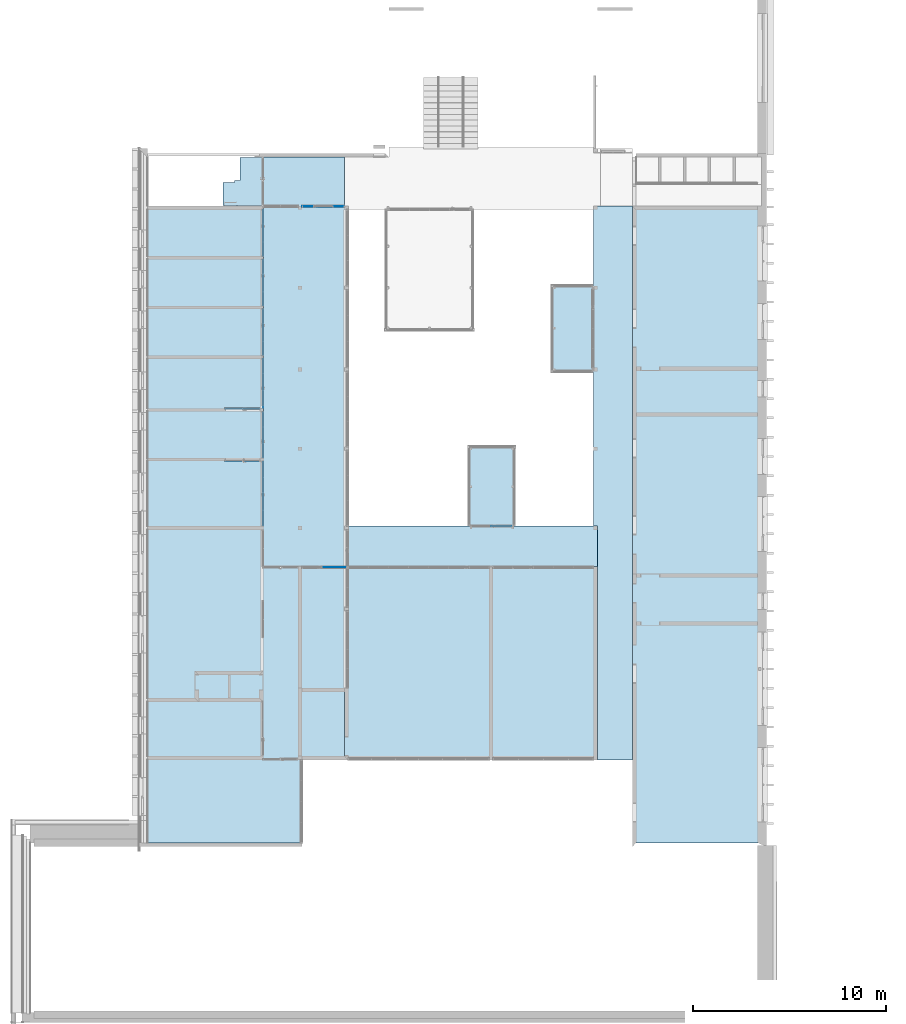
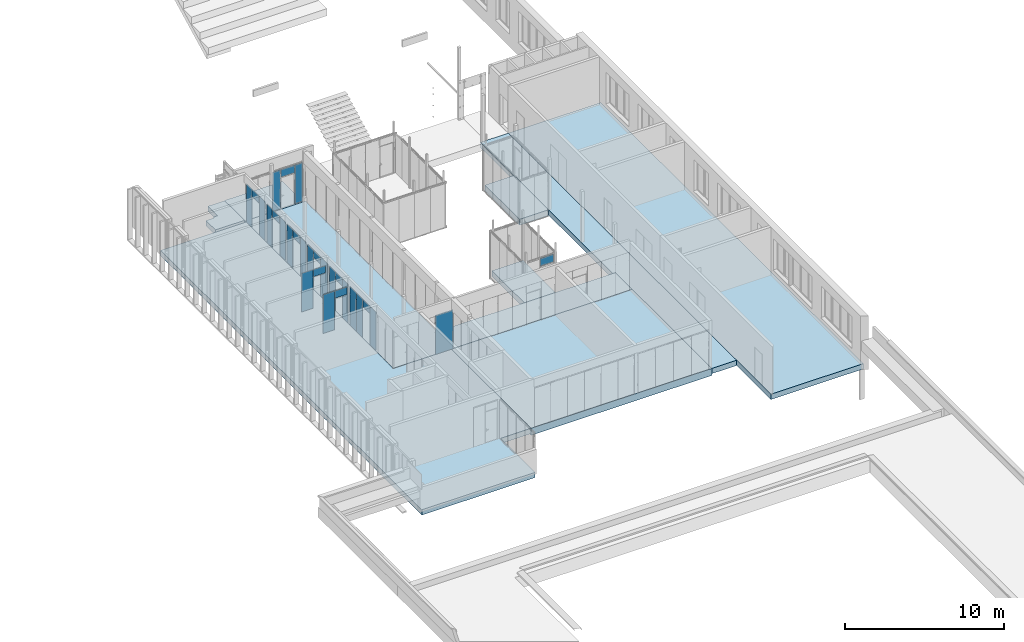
# One storey, part 25 of 387: 28 plates, 10 slabs, 11 elements without a shape of their own.
"""IFC2X3 building model written with IfcOpenShell, lengths in millimetres."""

from ifc_helpers import new_model, entity, si_unit, converted_unit, derived_unit, money_unit, direction, frame, origin_with_axes, place, context, subcontext, project, spatial, polyline, outline, extrude, material, layer, layer_set, layer_usage, type_object, element, aggregate, save


model = new_model("IFC2X3")

# Units and contexts
model_context = context("Model", 3, precision=0.01, world=origin_with_axes(), true_north=direction((0.0, 1.0)))
body_context = subcontext(model_context, "Body", "Model", "MODEL_VIEW")
ifc_project = project(units=[si_unit("LENGTHUNIT", "METRE", prefix="MILLI"), si_unit("AREAUNIT", "SQUARE_METRE"), si_unit("VOLUMEUNIT", "CUBIC_METRE"), converted_unit("PLANEANGLEUNIT", "DEGREE", entity("IfcPlaneAngleMeasure", 0.0174532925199), si_unit("PLANEANGLEUNIT", "RADIAN"), dimensions=[0, 0, 0, 0, 0, 0, 0]), si_unit("SOLIDANGLEUNIT", "STERADIAN"), money_unit("EUR"), converted_unit("TIMEUNIT", "Year", entity("IfcTimeMeasure", 31556926.0), si_unit("TIMEUNIT", "SECOND"), dimensions=[0, 0, 1, 0, 0, 0, 0]), si_unit("MASSUNIT", "GRAM", prefix="KILO"), si_unit("THERMODYNAMICTEMPERATUREUNIT", "DEGREE_CELSIUS"), si_unit("LUMINOUSINTENSITYUNIT", "LUMEN"), si_unit("ENERGYUNIT", "JOULE", prefix="MEGA"), derived_unit("THERMALCONDUCTANCEUNIT", [(si_unit("POWERUNIT", "WATT"), 1), (si_unit("LENGTHUNIT", "METRE"), -1), (si_unit("THERMODYNAMICTEMPERATUREUNIT", "KELVIN"), -1)]), derived_unit("SPECIFICHEATCAPACITYUNIT", [(si_unit("ENERGYUNIT", "JOULE"), 1), (si_unit("MASSUNIT", "GRAM", prefix="KILO"), -1), (si_unit("THERMODYNAMICTEMPERATUREUNIT", "KELVIN"), -1)]), derived_unit("MASSDENSITYUNIT", [(si_unit("MASSUNIT", "GRAM", prefix="KILO"), 1), (si_unit("VOLUMEUNIT", "CUBIC_METRE"), -1)])], contexts=[model_context])

# Site, building, storey
site_placement = place(None, origin_with_axes())
site = spatial("IfcSite", under=ifc_project, at=site_placement, Name="Puškini 31, Narva", CompositionType="ELEMENT")
building_placement = place(site_placement, origin_with_axes())
building = spatial("IfcBuilding", under=site, at=building_placement, Name="Narva Riigigümnaasium", CompositionType="ELEMENT")
storey_placement = place(building_placement, frame((0.0, 0.0, 2640.0), z_axis=(0.0, 0.0, 1.0), x_axis=(1.0, 0.0, 0.0)))
storey = spatial("IfcBuildingStorey", under=building, at=storey_placement, Name="2.korrus +2.64", CompositionType="ELEMENT", Elevation=2640.0)

# Curtain wall, plates
curtain_wall_type = type_object("IfcCurtainWallType", Name="Curtain Wall Type", PredefinedType="NOTDEFINED")
curtain_wall_1_placement = place(storey_placement, frame((28390.0000001, 190769.973479, -0.000112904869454), z_axis=(0.0, 0.0, 1.0), x_axis=(1.0, 0.0, 0.0)))
curtain_wall_1 = element("IfcCurtainWall", 1, at=curtain_wall_1_placement, inside=storey, type_object=curtain_wall_type, Name="G-SKLF-22")
ifc_material_1 = material(Name="VKR-05_Klaas")
plate_type_1 = type_object("IfcPlateType", Name="Main Panel 868 x 599 x 0", PredefinedType="CURTAIN_PANEL")
plate_1_placement = place(curtain_wall_1_placement, frame((0.0, 0.0, 2715.00000471), z_axis=(0.0, 0.0, 1.0), x_axis=(0.0, -1.0, 0.0)))
plate_1 = element("IfcPlate", 2, at=plate_1_placement, type_object=plate_type_1, material=ifc_material_1, Name="G-SKLF-22-klaas", ObjectType="CURTAIN_PANEL", context=body_context, shape_type="SweptSolid", body=[
    extrude(outline(polyline([(-450.0, -285.000000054), (450.0, -285.000000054), (450.0, 282.999995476), (-450.0, 282.999995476), (-450.0, -285.000000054)])), frame((0.0, -3.0, 0.0), z_axis=(0.0, 1.0, 0.0), x_axis=(1.0, 0.0, 0.0)), (0.0, 0.0, 1.0), 10.0),
])
plate_type_2 = type_object("IfcPlateType", Name="Main Panel 719 x 615 x 0", PredefinedType="CURTAIN_PANEL")
plate_2_placement = place(curtain_wall_1_placement, frame((0.0, -825.0, 1810.00000314), z_axis=(0.0, 0.0, 1.0), x_axis=(0.0, -1.0, 0.0)))
plate_2 = element("IfcPlate", 3, at=plate_2_placement, type_object=plate_type_2, material=ifc_material_1, Name="G-SKLF-22-klaas", ObjectType="CURTAIN_PANEL", context=body_context, shape_type="SweptSolid", body=[
    extrude(outline(polyline([(-342.999987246, -1189.9999818), (344.999980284, -1189.9999818), (344.999980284, 1779.99998343), (-342.999987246, 1779.99998343), (-342.999987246, -1189.9999818)])), frame((0.0, -3.0, 0.0), z_axis=(0.0, 1.0, 0.0), x_axis=(1.0, 0.0, 0.0)), (0.0, 0.0, 1.0), 10.0),
])
plate_3_placement = place(curtain_wall_1_placement, frame((0.0, 825.013260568, 1810.00000314), z_axis=(0.0, 0.0, 1.0), x_axis=(0.0, -1.0, 0.0)))
plate_3 = element("IfcPlate", 4, at=plate_3_placement, type_object=plate_type_2, material=ifc_material_1, Name="G-SKLF-22-klaas", ObjectType="CURTAIN_PANEL", context=body_context, shape_type="SweptSolid", body=[
    extrude(outline(polyline([(-345.013264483, -1189.9999818), (343.013251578, -1189.9999818), (343.013251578, 1779.99998343), (-345.013264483, 1779.99998343), (-345.013264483, -1189.9999818)])), frame((0.0, -3.0, 0.0), z_axis=(0.0, 1.0, 0.0), x_axis=(1.0, 0.0, 0.0)), (0.0, 0.0, 1.0), 10.0),
])
aggregate(curtain_wall_1, [plate_1, plate_2, plate_3])

curtain_wall_2_placement = place(storey_placement, frame((26984.7499996, 181679.973357, -1.33722362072e-05), z_axis=(0.0, 0.0, 1.0), x_axis=(1.0, 0.0, 0.0)))
curtain_wall_2 = element("IfcCurtainWall", 5, at=curtain_wall_2_placement, inside=storey, type_object=curtain_wall_type, Name="G-SKLF-18")
plate_type_3 = type_object("IfcPlateType", Name="Distinct Panel 16 x 630 x 20", PredefinedType="CURTAIN_PANEL")
plate_4_placement = place(curtain_wall_2_placement, frame((0.0, 0.0, 1736.25000493), z_axis=(0.0, 0.0, 1.0), x_axis=(1.0, 0.0, 0.0)))
plate_4 = element("IfcPlate", 6, at=plate_4_placement, type_object=plate_type_3, material=ifc_material_1, Name="G-SKLF-18-klaas", ObjectType="CURTAIN_PANEL", context=body_context, shape_type="SweptSolid", body=[
    extrude(outline(polyline([(-524.749984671, -1263.74997958), (313.249991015, -1263.74997958), (313.249991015, 1706.24998521), (-524.749984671, 1706.24998521), (-524.749984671, -1263.74997958)])), frame((0.0, -2.49999999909, 0.0), z_axis=(0.0, 1.0, 0.0), x_axis=(1.0, 0.0, 0.0)), (0.0, 0.0, 1.0), 9.00000002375),
])
plate_type_4 = type_object("IfcPlateType", Name="Distinct Panel 868 x 598 x 20", PredefinedType="CURTAIN_PANEL")
plate_5_placement = place(curtain_wall_2_placement, frame((795.25, 2.25099938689e-08, 2715.0000088), z_axis=(0.0, 0.0, 1.0), x_axis=(1.0, 0.0, 0.0)))
plate_5 = element("IfcPlate", 7, at=plate_5_placement, type_object=plate_type_4, material=ifc_material_1, Name="G-SKLF-18-klaas", ObjectType="CURTAIN_PANEL", context=body_context, shape_type="SweptSolid", body=[
    extrude(outline(polyline([(-450.0, -283.000000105), (417.99999553, -283.000000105), (417.99999553, 282.999990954), (-450.0, 282.999990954), (-450.0, -283.000000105)])), frame((0.0, -2.49999999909, 0.0), z_axis=(0.0, 1.0, 0.0), x_axis=(1.0, 0.0, 0.0)), (0.0, 0.0, 1.0), 9.00000002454),
])
aggregate(curtain_wall_2, [plate_4, plate_5])

curtain_wall_3_placement = place(storey_placement, frame((28390.0000002, 176724.161139, -5.42380846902e-05), z_axis=(0.0, 0.0, 1.0), x_axis=(1.0, 0.0, 0.0)))
curtain_wall_3 = element("IfcCurtainWall", 8, at=curtain_wall_3_placement, inside=storey, type_object=curtain_wall_type, Name="G-SKLF-12")
plate_type_5 = type_object("IfcPlateType", Name="Distinct Panel 790 x 615 x 20", PredefinedType="CURTAIN_PANEL")
plate_6_placement = place(curtain_wall_3_placement, frame((-1.4544809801e-08, 941.953749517, 1551.42859182), z_axis=(0.0, 0.0, 1.0), x_axis=(0.0, 1.0, 0.0)))
plate_6 = element("IfcPlate", 9, at=plate_6_placement, type_object=plate_type_5, material=ifc_material_1, Name="G-SKLF-12-klaas", ObjectType="CURTAIN_PANEL", context=body_context, shape_type="SweptSolid", body=[
    extrude(outline(polyline([(-318.142857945, -1448.57140546), (456.857142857, -1448.57140546), (456.857142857, 1521.42857198), (-318.142857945, 1521.42857198), (-318.142857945, -1448.57140546)])), frame((0.0, -2.5, 0.0), z_axis=(0.0, 1.0, 0.0), x_axis=(1.0, 0.0, 0.0)), (0.0, 0.0, 1.0), 9.0),
])
plate_type_6 = type_object("IfcPlateType", Name="Distinct Panel 868 x 599 x 20", PredefinedType="CURTAIN_PANEL")
plate_7_placement = place(curtain_wall_3_placement, frame((-8.77520278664e-10, 56.7243570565, 2652.00003939), z_axis=(0.0, 0.0, 1.0), x_axis=(0.0, 1.0, 0.0)))
plate_7 = element("IfcPlate", 10, at=plate_7_placement, type_object=plate_type_6, material=ifc_material_1, Name="G-SKLF-12-klaas", ObjectType="CURTAIN_PANEL", context=body_context, shape_type="SweptSolid", body=[
    extrude(outline(polyline([(-364.913464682, -347.999974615), (535.086535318, -347.999974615), (535.086535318, 219.999980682), (-364.913464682, 219.999980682), (-364.913464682, -347.999974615)])), frame((0.0, -2.5, 0.0), z_axis=(0.0, 1.0, 0.0), x_axis=(1.0, 0.0, 0.0)), (0.0, 0.0, 1.0), 9.0),
])
plate_type_7 = type_object("IfcPlateType", Name="Distinct Panel 791 x 615 x 20", PredefinedType="CURTAIN_PANEL")
plate_8_placement = place(curtain_wall_3_placement, frame((-2.78248535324e-08, 1802.31089237, 1810.00002379), z_axis=(0.0, 0.0, 1.0), x_axis=(0.0, 1.0, 0.0)))
plate_8 = element("IfcPlate", 11, at=plate_8_placement, type_object=plate_type_7, material=ifc_material_1, Name="G-SKLF-12-klaas", ObjectType="CURTAIN_PANEL", context=body_context, shape_type="SweptSolid", body=[
    extrude(outline(polyline([(-400.49998085, -1189.99997349), (373.499980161, -1189.99997349), (373.499980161, 1780.00000395), (-400.49998085, 1780.00000395), (-400.49998085, -1189.99997349)])), frame((0.0, -2.5, 0.0), z_axis=(0.0, 1.0, 0.0), x_axis=(1.0, 0.0, 0.0)), (0.0, 0.0, 1.0), 9.0),
])
plate_type_8 = type_object("IfcPlateType", Name="Distinct Panel 775 x 615 x 20", PredefinedType="CURTAIN_PANEL")
plate_9_placement = place(curtain_wall_3_placement, frame((1.0153655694e-08, -657.887331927, 1551.42859182), z_axis=(0.0, 0.0, 1.0), x_axis=(0.0, 1.0, 0.0)))
plate_9 = element("IfcPlate", 12, at=plate_9_placement, type_object=plate_type_8, material=ifc_material_1, Name="G-SKLF-12-klaas", ObjectType="CURTAIN_PANEL", context=body_context, shape_type="SweptSolid", body=[
    extrude(outline(polyline([(-426.273597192, -1448.57140546), (317.69821518, -1448.57140546), (317.69821518, 1521.42857198), (-426.273732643, 1521.42857198), (-426.273597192, -1448.57140546)])), frame((0.0, -2.5, 0.0), z_axis=(0.0, 1.0, 0.0), x_axis=(1.0, 0.0, 0.0)), (0.0, 0.0, 1.0), 9.0),
])
aggregate(curtain_wall_3, [plate_6, plate_7, plate_8, plate_9])

# Curtain wall, plate
curtain_wall_4_placement = place(storey_placement, frame((30909.9999988, 173462.997263, -3.04069565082e-05), z_axis=(0.0, 0.0, 1.0), x_axis=(1.0, 0.0, 0.0)))
curtain_wall_4 = element("IfcCurtainWall", 13, at=curtain_wall_4_placement, inside=storey, type_object=curtain_wall_type, Name="G-SKLF-13")
plate_type_9 = type_object("IfcPlateType", Name="1301 x 630 x 10", PredefinedType="CURTAIN_PANEL")
plate_10_placement = place(curtain_wall_4_placement, frame((1068.28444685, -2.29931629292e-08, 1551.42857541), z_axis=(0.0, 0.0, 1.0), x_axis=(-1.0, 0.0, 0.0)))
plate_10 = element("IfcPlate", 14, at=plate_10_placement, type_object=plate_type_9, material=ifc_material_1, Name="G-SKLF-13-klaas", ObjectType="CURTAIN_PANEL", context=body_context, shape_type="SweptSolid", body=[
    extrude(outline(polyline([(-732.713262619, -1478.57140812), (568.284446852, -1478.57140812), (568.284446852, -848.571449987), (553.284437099, -848.571449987), (553.284437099, 1551.42857541), (538.286594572, 1551.42857541), (538.286594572, 1536.42856566), (-732.71335292, 1536.42856566), (-732.713262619, -1478.57140812)])), frame((0.0, -6.50000002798, 0.0), z_axis=(0.0, 1.0, 0.0), x_axis=(1.0, 0.0, 0.0)), (0.0, 0.0, 1.0), 9.00000002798),
])
aggregate(curtain_wall_4, [plate_10])

curtain_wall_5_placement = place(storey_placement, frame((41281.9672345, 175592.500019, -3.22566622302e-05), z_axis=(0.0, 0.0, 1.0), x_axis=(1.0, 0.0, 0.0)))
curtain_wall_5 = element("IfcCurtainWall", 15, at=curtain_wall_5_placement, inside=storey, type_object=curtain_wall_type, Name="G-SKLF-38")
plate_type_10 = type_object("IfcPlateType", Name="32 x 615 x 10", PredefinedType="CURTAIN_PANEL")
plate_11_placement = place(curtain_wall_5_placement, frame((-719.298811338, 1.3073986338e-09, 2715.0000088), z_axis=(0.0, 0.0, 1.0), x_axis=(-1.0, 0.0, 0.0)))
plate_11 = element("IfcPlate", 16, at=plate_11_placement, type_object=plate_type_10, material=ifc_material_1, Name="G-SKLF-38-klaas", ObjectType="CURTAIN_PANEL", context=body_context, shape_type="SweptSolid", body=[
    extrude(outline(polyline([(-657.182705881, -299.999965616), (344.365414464, -299.999965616), (344.365414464, 314.999976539), (-657.182705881, 314.999976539), (-657.182705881, -299.999965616)])), frame((0.0, -5.00000000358, 0.0), z_axis=(0.0, 1.0, 0.0), x_axis=(1.0, 0.0, 0.0)), (0.0, 0.0, 1.0), 10.0000000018),
])
aggregate(curtain_wall_5, [plate_11])

# Curtain wall, plates
curtain_wall_6_placement = place(storey_placement, frame((26985.0, 178969.972032, -1.33722362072e-05), z_axis=(0.0, 0.0, 1.0), x_axis=(1.0, 0.0, 0.0)))
curtain_wall_6 = element("IfcCurtainWall", 17, at=curtain_wall_6_placement, inside=storey, type_object=curtain_wall_type, Name="G-SKLF-16")
plate_type_11 = type_object("IfcPlateType", Name="29 x 630 x 20", PredefinedType="CURTAIN_PANEL")
plate_12_placement = place(curtain_wall_6_placement, frame((0.0, 0.0, 1736.25000493), z_axis=(0.0, 0.0, 1.0), x_axis=(1.0, 0.0, 0.0)))
plate_12 = element("IfcPlate", 18, at=plate_12_placement, type_object=plate_type_11, material=ifc_material_1, Name="G-SKLF-16-klaas", ObjectType="CURTAIN_PANEL", context=body_context, shape_type="SweptSolid", body=[
    extrude(outline(polyline([(-524.999984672, -1263.74997958), (312.999991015, -1263.74997958), (312.999991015, 1706.24998521), (-524.999984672, 1706.24998521), (-524.999984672, -1263.74997958)])), frame((0.0, -6.50000002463, 0.0), z_axis=(0.0, 1.0, 0.0), x_axis=(1.0, 0.0, 0.0)), (0.0, 0.0, 1.0), 9.00000002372),
])
plate_type_12 = type_object("IfcPlateType", Name="883 x 613 x 20", PredefinedType="CURTAIN_PANEL")
plate_13_placement = place(curtain_wall_6_placement, frame((795.0, -2.25384155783e-08, 2715.0000088), z_axis=(0.0, 0.0, 1.0), x_axis=(1.0, 0.0, 0.0)))
plate_13 = element("IfcPlate", 19, at=plate_13_placement, type_object=plate_type_12, material=ifc_material_1, Name="G-SKLF-16-klaas", ObjectType="CURTAIN_PANEL", context=body_context, shape_type="SweptSolid", body=[
    extrude(outline(polyline([(-450.0, -283.000000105), (417.99999553, -283.000000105), (417.99999553, 282.999990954), (-450.0, 282.999990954), (-450.0, -283.000000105)])), frame((0.0, -6.50000002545, 0.0), z_axis=(0.0, 1.0, 0.0), x_axis=(1.0, 0.0, 0.0)), (0.0, 0.0, 1.0), 9.00000002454),
])
aggregate(curtain_wall_6, [plate_12, plate_13])

# Curtain wall, plate
curtain_wall_7_placement = place(storey_placement, frame((28390.0000001, 188199.946958, -0.000112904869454), z_axis=(0.0, 0.0, 1.0), x_axis=(1.0, 0.0, 0.0)))
curtain_wall_7 = element("IfcCurtainWall", 20, at=curtain_wall_7_placement, inside=storey, type_object=curtain_wall_type, Name="G-SKLF-21")
plate_type_13 = type_object("IfcPlateType", Name="Main Panel 868 x 599 x 20", PredefinedType="CURTAIN_PANEL")
plate_14_placement = place(curtain_wall_7_placement, frame((0.0, 0.0, 2715.00000471), z_axis=(0.0, 0.0, 1.0), x_axis=(0.0, -1.0, 0.0)))
plate_14 = element("IfcPlate", 21, at=plate_14_placement, type_object=plate_type_13, material=ifc_material_1, Name="G-SKLF-21-klaas", ObjectType="CURTAIN_PANEL", context=body_context, shape_type="SweptSolid", body=[
    extrude(outline(polyline([(-450.0, -285.000000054), (450.0, -285.000000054), (450.0, 282.999995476), (-450.0, 282.999995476), (-450.0, -285.000000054)])), frame((0.0, -2.5, 0.0), z_axis=(0.0, 1.0, 0.0), x_axis=(1.0, 0.0, 0.0)), (0.0, 0.0, 1.0), 9.0),
])

curtain_wall_8_placement = place(storey_placement, frame((28390.0000001, 185629.946958, -0.000112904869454), z_axis=(0.0, 0.0, 1.0), x_axis=(1.0, 0.0, 0.0)))
curtain_wall_8 = element("IfcCurtainWall", 22, at=curtain_wall_8_placement, inside=storey, type_object=curtain_wall_type, Name="G-SKLF-20")
plate_15_placement = place(curtain_wall_8_placement, frame((0.0, 0.0, 2715.00000471), z_axis=(0.0, 0.0, 1.0), x_axis=(0.0, -1.0, 0.0)))
plate_15 = element("IfcPlate", 23, at=plate_15_placement, type_object=plate_type_13, material=ifc_material_1, Name="G-SKLF-21-klaas", ObjectType="CURTAIN_PANEL", context=body_context, shape_type="SweptSolid", body=[
    extrude(outline(polyline([(-450.0, -285.000000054), (450.0, -285.000000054), (450.0, 282.999995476), (-450.0, 282.999995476), (-450.0, -285.000000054)])), frame((0.0, -2.5, 0.0), z_axis=(0.0, 1.0, 0.0), x_axis=(1.0, 0.0, 0.0)), (0.0, 0.0, 1.0), 9.0),
])

curtain_wall_9_placement = place(storey_placement, frame((28390.0000001, 183059.973479, -0.000112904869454), z_axis=(0.0, 0.0, 1.0), x_axis=(1.0, 0.0, 0.0)))
curtain_wall_9 = element("IfcCurtainWall", 24, at=curtain_wall_9_placement, inside=storey, type_object=curtain_wall_type, Name="G-SKLF-19")
plate_16_placement = place(curtain_wall_9_placement, frame((0.0, 0.0, 2715.00000471), z_axis=(0.0, 0.0, 1.0), x_axis=(0.0, 1.0, 0.0)))
plate_16 = element("IfcPlate", 25, at=plate_16_placement, type_object=plate_type_13, material=ifc_material_1, Name="G-SKLF-22-klaas", ObjectType="CURTAIN_PANEL", context=body_context, shape_type="SweptSolid", body=[
    extrude(outline(polyline([(-417.99999553, -285.000000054), (417.99999553, -285.000000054), (417.99999553, 282.999995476), (-417.99999553, 282.999995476), (-417.99999553, -285.000000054)])), frame((0.0, -6.5, 0.0), z_axis=(0.0, 1.0, 0.0), x_axis=(1.0, 0.0, 0.0)), (0.0, 0.0, 1.0), 9.0),
])

curtain_wall_10_placement = place(storey_placement, frame((28390.0000001, 180299.973357, -0.00013048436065), z_axis=(0.0, 0.0, 1.0), x_axis=(1.0, 0.0, 0.0)))
curtain_wall_10 = element("IfcCurtainWall", 26, at=curtain_wall_10_placement, inside=storey, type_object=curtain_wall_type, Name="G-SKLF-17")
plate_17_placement = place(curtain_wall_10_placement, frame((0.0, 0.0, 2715.0000221), z_axis=(0.0, 0.0, 1.0), x_axis=(0.0, 1.0, 0.0)))
plate_17 = element("IfcPlate", 27, at=plate_17_placement, type_object=plate_type_13, material=ifc_material_1, Name="G-SKLF-22-klaas", ObjectType="CURTAIN_PANEL", context=body_context, shape_type="SweptSolid", body=[
    extrude(outline(polyline([(-417.99999553, -285.000000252), (417.99999553, -285.000000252), (417.99999553, 282.999995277), (-417.99999553, 282.999995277), (-417.99999553, -285.000000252)])), frame((0.0, -6.5, 0.0), z_axis=(0.0, 1.0, 0.0), x_axis=(1.0, 0.0, 0.0)), (0.0, 0.0, 1.0), 9.0),
])

# Plate
plate_type_14 = type_object("IfcPlateType", Name="Main Panel 719 x 615 x 20", PredefinedType="CURTAIN_PANEL")
plate_18_placement = place(curtain_wall_7_placement, frame((0.0, 825.013260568, 1810.00000314), z_axis=(0.0, 0.0, 1.0), x_axis=(0.0, -1.0, 0.0)))
plate_18 = element("IfcPlate", 28, at=plate_18_placement, type_object=plate_type_14, material=ifc_material_1, Name="G-SKLF-21-klaas", ObjectType="CURTAIN_PANEL", context=body_context, shape_type="SweptSolid", body=[
    extrude(outline(polyline([(-345.013264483, -1189.9999818), (343.013251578, -1189.9999818), (343.013251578, 1779.99998343), (-345.013264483, 1779.99998343), (-345.013264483, -1189.9999818)])), frame((0.0, -2.5, 0.0), z_axis=(0.0, 1.0, 0.0), x_axis=(1.0, 0.0, 0.0)), (0.0, 0.0, 1.0), 9.0),
])

plate_19_placement = place(curtain_wall_7_placement, frame((0.0, -825.0, 1810.00000314), z_axis=(0.0, 0.0, 1.0), x_axis=(0.0, -1.0, 0.0)))
plate_19 = element("IfcPlate", 29, at=plate_19_placement, type_object=plate_type_14, material=ifc_material_1, Name="G-SKLF-21-klaas", ObjectType="CURTAIN_PANEL", context=body_context, shape_type="SweptSolid", body=[
    extrude(outline(polyline([(-342.999987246, -1189.9999818), (344.999980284, -1189.9999818), (344.999980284, 1779.99998343), (-342.999987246, 1779.99998343), (-342.999987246, -1189.9999818)])), frame((0.0, -2.5, 0.0), z_axis=(0.0, 1.0, 0.0), x_axis=(1.0, 0.0, 0.0)), (0.0, 0.0, 1.0), 9.0),
])

aggregate(curtain_wall_7, [plate_14, plate_18, plate_19])

plate_20_placement = place(curtain_wall_8_placement, frame((0.0, 825.013260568, 1810.00000314), z_axis=(0.0, 0.0, 1.0), x_axis=(0.0, -1.0, 0.0)))
plate_20 = element("IfcPlate", 30, at=plate_20_placement, type_object=plate_type_14, material=ifc_material_1, Name="G-SKLF-21-klaas", ObjectType="CURTAIN_PANEL", context=body_context, shape_type="SweptSolid", body=[
    extrude(outline(polyline([(-345.013264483, -1189.9999818), (343.013251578, -1189.9999818), (343.013251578, 1779.99998343), (-345.013264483, 1779.99998343), (-345.013264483, -1189.9999818)])), frame((0.0, -2.5, 0.0), z_axis=(0.0, 1.0, 0.0), x_axis=(1.0, 0.0, 0.0)), (0.0, 0.0, 1.0), 9.0),
])

plate_21_placement = place(curtain_wall_8_placement, frame((0.0, -825.0, 1810.00000314), z_axis=(0.0, 0.0, 1.0), x_axis=(0.0, -1.0, 0.0)))
plate_21 = element("IfcPlate", 31, at=plate_21_placement, type_object=plate_type_14, material=ifc_material_1, Name="G-SKLF-21-klaas", ObjectType="CURTAIN_PANEL", context=body_context, shape_type="SweptSolid", body=[
    extrude(outline(polyline([(-342.999987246, -1189.9999818), (344.999980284, -1189.9999818), (344.999980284, 1779.99998343), (-342.999987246, 1779.99998343), (-342.999987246, -1189.9999818)])), frame((0.0, -2.5, 0.0), z_axis=(0.0, 1.0, 0.0), x_axis=(1.0, 0.0, 0.0)), (0.0, 0.0, 1.0), 9.0),
])

aggregate(curtain_wall_8, [plate_15, plate_20, plate_21])

plate_22_placement = place(curtain_wall_9_placement, frame((0.0, 825.0, 1810.00000314), z_axis=(0.0, 0.0, 1.0), x_axis=(0.0, 1.0, 0.0)))
plate_22 = element("IfcPlate", 32, at=plate_22_placement, type_object=plate_type_14, material=ifc_material_1, Name="G-SKLF-22-klaas", ObjectType="CURTAIN_PANEL", context=body_context, shape_type="SweptSolid", body=[
    extrude(outline(polyline([(-374.999996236, -1189.9999818), (344.999980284, -1189.9999818), (344.999980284, 1779.99998343), (-374.999996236, 1779.99998343), (-374.999996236, -1189.9999818)])), frame((0.0, -6.5, 0.0), z_axis=(0.0, 1.0, 0.0), x_axis=(1.0, 0.0, 0.0)), (0.0, 0.0, 1.0), 9.0),
])

plate_23_placement = place(curtain_wall_10_placement, frame((0.0, 825.0, 1810.00001473), z_axis=(0.0, 0.0, 1.0), x_axis=(0.0, 1.0, 0.0)))
plate_23 = element("IfcPlate", 33, at=plate_23_placement, type_object=plate_type_14, material=ifc_material_1, Name="G-SKLF-22-klaas", ObjectType="CURTAIN_PANEL", context=body_context, shape_type="SweptSolid", body=[
    extrude(outline(polyline([(-375.000000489, -1189.99998723), (344.999980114, -1189.99998723), (344.999980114, 1779.99999484), (-375.000000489, 1779.99999484), (-375.000000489, -1189.99998723)])), frame((0.0, -6.5, 0.0), z_axis=(0.0, 1.0, 0.0), x_axis=(1.0, 0.0, 0.0)), (0.0, 0.0, 1.0), 9.0),
])

plate_type_15 = type_object("IfcPlateType", Name="Main Panel 734 x 615 x 20", PredefinedType="CURTAIN_PANEL")
plate_24_placement = place(curtain_wall_9_placement, frame((0.0, -978.750025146, 1736.25000068), z_axis=(0.0, 0.0, 1.0), x_axis=(0.0, 1.0, 0.0)))
plate_24 = element("IfcPlate", 34, at=plate_24_placement, type_object=plate_type_15, material=ifc_material_1, Name="G-SKLF-22-klaas", ObjectType="CURTAIN_PANEL", context=body_context, shape_type="SweptSolid", body=[
    extrude(outline(polyline([(-351.249996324, -1263.74998426), (528.750025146, -1263.74998426), (528.750025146, 1706.24998097), (-351.250086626, 1706.24998097), (-351.249996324, -1263.74998426)])), frame((0.0, -6.5, 0.0), z_axis=(0.0, 1.0, 0.0), x_axis=(1.0, 0.0, 0.0)), (0.0, 0.0, 1.0), 9.0),
])

aggregate(curtain_wall_9, [plate_16, plate_24, plate_22])

plate_type_16 = type_object("IfcPlateType", Name="Main Panel 689 x 615 x 20", PredefinedType="CURTAIN_PANEL")
plate_25_placement = place(curtain_wall_10_placement, frame((0.0, -810.000660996, 1810.00001473), z_axis=(0.0, 0.0, 1.0), x_axis=(0.0, 1.0, 0.0)))
plate_25 = element("IfcPlate", 35, at=plate_25_placement, type_object=plate_type_16, material=ifc_material_1, Name="G-SKLF-22-klaas", ObjectType="CURTAIN_PANEL", context=body_context, shape_type="SweptSolid", body=[
    extrude(outline(polyline([(-330.000654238, -1189.99998723), (360.000660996, -1189.99998723), (360.000660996, 1779.99999484), (-330.000654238, 1779.99999484), (-330.000654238, -1189.99998723)])), frame((0.0, -6.5, 0.0), z_axis=(0.0, 1.0, 0.0), x_axis=(1.0, 0.0, 0.0)), (0.0, 0.0, 1.0), 9.0),
])

aggregate(curtain_wall_10, [plate_17, plate_23, plate_25])

# Curtain wall, plates
curtain_wall_11_placement = place(storey_placement, frame((32261.4285728, 192143.0, -1.99739158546e-06), z_axis=(0.0, 0.0, 1.0), x_axis=(1.0, 0.0, 0.0)))
curtain_wall_11 = element("IfcCurtainWall", 36, at=curtain_wall_11_placement, inside=storey, type_object=curtain_wall_type, Name="G-SKLF-24")
plate_type_17 = type_object("IfcPlateType", Name="Siseklaasfassaad - Klaas 570 x 615 x 10", PredefinedType="CURTAIN_PANEL")
plate_26_placement = place(curtain_wall_11_placement, frame((0.0, 0.0, 1551.42856921), z_axis=(0.0, 0.0, 1.0), x_axis=(1.0, 0.0, 0.0)))
plate_26 = element("IfcPlate", 37, at=plate_26_placement, type_object=plate_type_17, material=ifc_material_1, Name="G-SKLF-24-klaas", ObjectType="CURTAIN_PANEL", context=body_context, shape_type="SweptSolid", body=[
    extrude(outline(polyline([(-246.428547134, -1463.57141324), (323.571418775, -1463.57141324), (323.571418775, 1536.42855942), (-231.428582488, 1536.42855942), (-231.428582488, 1551.42856921), (-246.428547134, 1551.42856921), (-246.428547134, -1463.57141324)])), frame((0.0, -2.50000000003, 0.0), z_axis=(0.0, 1.0, 0.0), x_axis=(1.0, 0.0, 0.0)), (0.0, 0.0, 1.0), 8.99999999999),
])
plate_27_placement = place(curtain_wall_11_placement, frame((-1522.85714434, 0.0, 1551.42856921), z_axis=(0.0, 0.0, 1.0), x_axis=(1.0, 0.0, 0.0)))
plate_27 = element("IfcPlate", 38, at=plate_27_placement, type_object=plate_type_17, material=ifc_material_1, Name="G-SKLF-24-klaas", ObjectType="CURTAIN_PANEL", context=body_context, shape_type="SweptSolid", body=[
    extrude(outline(polyline([(-323.571402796, -1463.57141324), (246.428563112, -1463.57141324), (246.428563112, 1551.42856921), (231.428553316, 1551.42856921), (231.428553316, 1536.42855942), (-323.571402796, 1536.42855942), (-323.571402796, -1463.57141324)])), frame((0.0, -2.50000000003, 0.0), z_axis=(0.0, 1.0, 0.0), x_axis=(1.0, 0.0, 0.0)), (0.0, 0.0, 1.0), 8.99999999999),
])
plate_type_18 = type_object("IfcPlateType", Name="Siseklaasfassaad - Klaas 970 x 600 x 10", PredefinedType="CURTAIN_PANEL")
plate_28_placement = place(curtain_wall_11_placement, frame((-761.428571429, 0.0, 2714.99999613), z_axis=(0.0, 0.0, 1.0), x_axis=(1.0, 0.0, 0.0)))
plate_28 = element("IfcPlate", 39, at=plate_28_placement, type_object=plate_type_18, material=ifc_material_1, Name="G-SKLF-24-klaas", ObjectType="CURTAIN_PANEL", context=body_context, shape_type="SweptSolid", body=[
    extrude(outline(polyline([(-484.999985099, -299.999988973), (484.999985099, -299.999988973), (484.999985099, 299.999981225), (-484.999985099, 299.999981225), (-484.999985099, -299.999988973)])), frame((0.0, -2.5, 0.0), z_axis=(0.0, 1.0, 0.0), x_axis=(1.0, 0.0, 0.0)), (0.0, 0.0, 1.0), 8.99999999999),
])
aggregate(curtain_wall_11, [plate_26, plate_27, plate_28])

# Slabs
ifc_material_2 = material(Name="KON-04_Betoon - Konstuktsioon")
ifc_layer_1 = layer(ifc_material_2, 90.0, ventilated="UNKNOWN")
ifc_material_3 = material(Name="SOJ-04_Soojustus - Mineraal Kõva")
ifc_layer_2 = layer(ifc_material_3, 30.0, ventilated="UNKNOWN")
ifc_material_4 = material(Name="SOJ-06_Soojustus - Plastik Kõva")
ifc_layer_3 = layer(ifc_material_4, 20.0, ventilated="UNKNOWN")
ifc_material_5 = material(Name="Betoon element")
ifc_layer_4 = layer(ifc_material_5, 265.0, ventilated="UNKNOWN")
ifc_layer_set_1 = layer_set([ifc_layer_1, ifc_layer_2, ifc_layer_3, ifc_layer_4], Name="G-VL-02*")
ifc_layer_usage_1 = layer_usage(ifc_layer_set_1, "AXIS3", "NEGATIVE", 405.0)
slab_type_1 = type_object("IfcSlabType", Name="G-VL-02* 405", PredefinedType="NOTDEFINED")
slab_1_placement = place(storey_placement, frame((28399.9514175, 192101.547021, 0.0), z_axis=(0.0, 0.0, 1.0), x_axis=(1.0, 0.0, 0.0)))
element("IfcSlab", 40, at=slab_1_placement, inside=storey, type_object=slab_type_1, material=ifc_layer_usage_1, Name="Vahelagi", PredefinedType="NOTDEFINED", context=body_context, shape_type="SweptSolid", body=[
    extrude(outline(polyline([(0.0, 0.0), (-11.7933865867, -18601.5470367), (4200.04858523, -18601.5467595), (4200.04858523, -16501.5469978), (4400.04858894, -16501.5469978), (4400.04858894, 0.0), (0.0, 0.0)])), frame((0.0, 0.0, -405.0), z_axis=(0.0, 0.0, 1.0), x_axis=(1.0, 0.0, 0.0)), (0.0, 0.0, 1.0), 405.0),
])
slab_2_placement = place(storey_placement, frame((26899.9999984, 193380.0, 0.0), z_axis=(0.0, 0.0, 1.0), x_axis=(1.0, 0.0, 0.0)))
element("IfcSlab", 41, at=slab_2_placement, inside=storey, type_object=slab_type_1, material=ifc_layer_usage_1, Name="Vahelagi", PredefinedType="NOTDEFINED", context=body_context, shape_type="SweptSolid", body=[
    extrude(outline(polyline([(0.0, 0.0), (-599.999999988, 0.0), (-599.999999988, -1190.0), (1499.9513999, -1190.0), (1499.9513999, 1300.0), (299.999999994, 1300.0), (299.999999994, 100.0), (0.0, 100.0), (0.0, 0.0)])), frame((0.0, 0.0, -405.0), z_axis=(0.0, 0.0, 1.0), x_axis=(1.0, 0.0, 0.0)), (0.0, 0.0, 1.0), 405.0),
])
slab_3_placement = place(storey_placement, frame((32600.0000014, 194700.0, 0.0), z_axis=(0.0, 0.0, 1.0), x_axis=(1.0, 0.0, 0.0)))
element("IfcSlab", 42, at=slab_3_placement, inside=storey, type_object=slab_type_1, material=ifc_layer_usage_1, Name="Vahelagi", PredefinedType="NOTDEFINED", context=body_context, shape_type="SweptSolid", body=[
    extrude(outline(polyline([(0.0, 0.0), (-4200.04860308, 0.0), (-4200.04860308, -2598.45297911), (0.0, -2598.45297911), (0.0, 0.0)])), frame((0.0, 0.0, -405.0), z_axis=(0.0, 0.0, 1.0), x_axis=(1.0, 0.0, 0.0)), (0.0, 0.0, 1.0), 405.0),
])
slab_4_placement = place(storey_placement, frame((45499.9999975, 192180.0, 0.0), z_axis=(0.0, 0.0, 1.0), x_axis=(1.0, 0.0, 0.0)))
element("IfcSlab", 43, at=slab_4_placement, inside=storey, type_object=slab_type_1, material=ifc_layer_usage_1, Name="Vahelagi", PredefinedType="NOTDEFINED", context=body_context, shape_type="SweptSolid", body=[
    extrude(outline(polyline([(0.0, 0.0), (1.85982429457e-06, -16579.9999949), (200.000005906, -16579.9999318), (200.000005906, -28680.0000026), (1999.99999685, -28679.9999988), (1999.9999961, 0.0), (0.0, 0.0)])), frame((0.0, 0.0, -405.0), z_axis=(0.0, 0.0, 1.0), x_axis=(1.0, 0.0, 0.0)), (0.0, 0.0, 1.0), 405.0),
])
ifc_material_6 = material(Name="Salto-põrandakate")
ifc_layer_5 = layer(ifc_material_6, 10.0, ventilated="UNKNOWN")
ifc_layer_6 = layer(ifc_material_2, 80.0, ventilated="UNKNOWN")
ifc_layer_set_2 = layer_set([ifc_layer_5, ifc_layer_6, ifc_layer_2, ifc_layer_3, ifc_layer_4], Name="G-VL-02")
ifc_layer_usage_2 = layer_usage(ifc_layer_set_2, "AXIS3", "NEGATIVE", 405.0)
slab_type_2 = type_object("IfcSlabType", Name="G-VL-02 405", PredefinedType="NOTDEFINED")
slab_5_placement = place(storey_placement, frame((47499.9999936, 159199.999999, 0.0), z_axis=(0.0, 0.0, 1.0), x_axis=(1.0, 0.0, 0.0)))
element("IfcSlab", 44, at=slab_5_placement, inside=storey, type_object=slab_type_2, material=ifc_layer_usage_2, Name="Vahelagi", PredefinedType="NOTDEFINED", context=body_context, shape_type="SweptSolid", body=[
    extrude(outline(polyline([(0.0, 0.0), (6700.00000119, 1.41298528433e-06), (6700.00000119, 32980.0000011), (-2.03215222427e-09, 32980.0000011), (0.0, 0.0)])), frame((0.0, 0.0, -405.0), z_axis=(0.0, 0.0, 1.0), x_axis=(1.0, 0.0, 0.0)), (0.0, 0.0, 1.0), 405.0),
])
slab_6_placement = place(storey_placement, frame((22200.0000432, 191980.0, 0.0), z_axis=(0.0, 0.0, 1.0), x_axis=(1.0, 0.0, 0.0)))
element("IfcSlab", 45, at=slab_6_placement, inside=storey, type_object=slab_type_2, material=ifc_layer_usage_2, Name="Vahelagi", PredefinedType="NOTDEFINED", context=body_context, shape_type="SweptSolid", body=[
    extrude(outline(polyline([(0.0, 0.0), (0.0, -32779.9999998), (8207.07862024, -32780.0000007), (8207.07862024, -28479.999998), (10399.9999582, -28479.9999986), (10399.9999582, -18479.9997623), (6188.15798775, -18480.0000159), (6199.95135512, 0.0), (0.0, 0.0)])), frame((0.0, 0.0, -405.0), z_axis=(0.0, 0.0, 1.0), x_axis=(1.0, 0.0, 0.0)), (0.0, 0.0, 1.0), 405.0),
])
ifc_layer_7 = layer(ifc_material_5, 400.0, ventilated="UNKNOWN")
ifc_layer_set_3 = layer_set([ifc_layer_1, ifc_layer_2, ifc_layer_3, ifc_layer_7], Name="G-VL-05*")
ifc_layer_usage_3 = layer_usage(ifc_layer_set_3, "AXIS3", "NEGATIVE", 540.0)
slab_type_3 = type_object("IfcSlabType", Name="G-VL-05* 540", PredefinedType="NOTDEFINED")
slab_7_placement = place(storey_placement, frame((32600.0000014, 175600.000072, 0.0), z_axis=(0.0, 0.0, 1.0), x_axis=(1.0, 0.0, 0.0)))
element("IfcSlab", 46, at=slab_7_placement, inside=storey, type_object=slab_type_3, material=ifc_layer_usage_3, Name="Vahelagi", PredefinedType="NOTDEFINED", context=body_context, shape_type="SweptSolid", body=[
    extrude(outline(polyline([(0.0, 0.0), (0.0, -2100.00006035), (13100.0000021, -2100.00007833), (13100.0000021, 0.0), (0.0, 0.0)])), frame((0.0, 0.0, -540.0), z_axis=(0.0, 0.0, 1.0), x_axis=(1.0, 0.0, 0.0)), (0.0, 0.0, 1.0), 540.0),
])
ifc_material_7 = material(Name="SKR-02_Kipsplaat")
ifc_layer_8 = layer(ifc_material_7, 15.0, ventilated="UNKNOWN")
ifc_layer_9 = layer(ifc_material_3, 20.0, ventilated="UNKNOWN")
ifc_material_8 = material(Name="SKR-04_Puitplaat")
ifc_layer_10 = layer(ifc_material_8, 22.0, ventilated="UNKNOWN")
ifc_material_9 = material(Name="SOJ-01_Soojustus - Fiiber Pehme")
ifc_layer_11 = layer(ifc_material_9, 245.0, ventilated="UNKNOWN")
ifc_layer_12 = layer(ifc_material_8, 25.0, ventilated="UNKNOWN")
ifc_layer_13 = layer(ifc_material_9, 66.0, ventilated="UNKNOWN")
ifc_layer_14 = layer(ifc_material_7, 12.0, ventilated="UNKNOWN")
ifc_layer_15 = layer(ifc_material_7, 13.0, ventilated="UNKNOWN")
ifc_layer_set_4 = layer_set([ifc_layer_5, ifc_layer_8, ifc_layer_8, ifc_layer_9, ifc_layer_10, ifc_layer_11, ifc_layer_12, ifc_layer_13, ifc_layer_14, ifc_layer_15], Name="G-VL-06")
ifc_layer_usage_4 = layer_usage(ifc_layer_set_4, "AXIS3", "NEGATIVE", 443.0)
slab_type_4 = type_object("IfcSlabType", Name="G-VL-06 443", PredefinedType="NOTDEFINED")
slab_8_placement = place(storey_placement, frame((43399.999997, 187985.000006, 0.0), z_axis=(0.0, 0.0, 1.0), x_axis=(1.0, 0.0, 0.0)))
element("IfcSlab", 47, at=slab_8_placement, inside=storey, type_object=slab_type_4, material=ifc_layer_usage_4, Name="Vahelagi", PredefinedType="NOTDEFINED", context=body_context, shape_type="SweptSolid", body=[
    extrude(outline(polyline([(0.0, 0.0), (0.0, -4335.00000102), (2100.00000209, -4335.00000102), (2100.00000209, -2.14254782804e-05), (0.0, 0.0)])), frame((0.0, 0.0, -443.0), z_axis=(0.0, 0.0, 1.0), x_axis=(1.0, 0.0, 0.0)), (0.0, 0.0, 1.0), 443.0),
])
slab_9_placement = place(storey_placement, frame((39100.0000018, 179650.000082, 0.0), z_axis=(0.0, 0.0, 1.0), x_axis=(1.0, 0.0, 0.0)))
element("IfcSlab", 48, at=slab_9_placement, inside=storey, type_object=slab_type_4, material=ifc_layer_usage_4, Name="Vahelagi", PredefinedType="NOTDEFINED", context=body_context, shape_type="SweptSolid", body=[
    extrude(outline(polyline([(0.0, 0.0), (0.0, -4050.00007687), (2249.99999611, -4050.00007687), (2249.99999611, -2.29558452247e-05), (0.0, 0.0)])), frame((0.0, 0.0, -443.0), z_axis=(0.0, 0.0, 1.0), x_axis=(1.0, 0.0, 0.0)), (0.0, 0.0, 1.0), 443.0),
])
ifc_layer_set_5 = layer_set([ifc_layer_5, ifc_layer_6, ifc_layer_2, ifc_layer_3, ifc_layer_7], Name="G-VL-05")
ifc_layer_usage_5 = layer_usage(ifc_layer_set_5, "AXIS3", "NEGATIVE", 540.0)
slab_type_5 = type_object("IfcSlabType", Name="G-VL-05 540", PredefinedType="NOTDEFINED")
slab_10_placement = place(storey_placement, frame((32600.0000014, 163499.999998, 0.0), z_axis=(0.0, 0.0, 1.0), x_axis=(1.0, 0.0, 0.0)))
element("IfcSlab", 49, at=slab_10_placement, inside=storey, type_object=slab_type_5, material=ifc_layer_usage_5, Name="Vahelagi", PredefinedType="NOTDEFINED", context=body_context, shape_type="SweptSolid", body=[
    extrude(outline(polyline([(0.0, 0.0), (13100.0000021, 0.0), (13100.0000021, 10000.0000138), (0.0, 10000.0000138), (0.0, 0.0)])), frame((0.0, 0.0, -540.0), z_axis=(0.0, 0.0, 1.0), x_axis=(1.0, 0.0, 0.0)), (0.0, 0.0, 1.0), 540.0),
])

save(model, "model.ifc")
